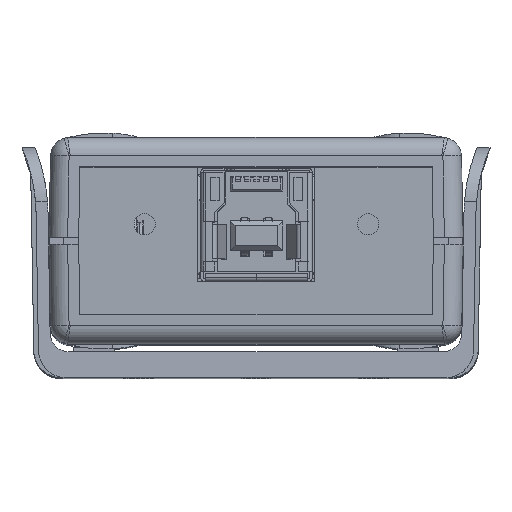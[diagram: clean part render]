
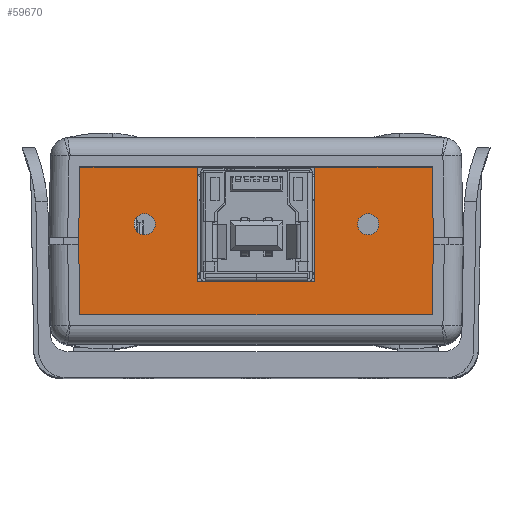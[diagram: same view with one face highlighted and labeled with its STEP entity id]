
A CAD part, top view. The second image highlights one B-rep face of the part: STEP entity #59670.
In plain terms, the highlighted planar face has unit normal (0, 0, 1).
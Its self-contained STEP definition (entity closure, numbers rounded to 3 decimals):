
#1153=FACE_BOUND('',#7857,.T.);
#1154=FACE_BOUND('',#7858,.T.);
#2159=CIRCLE('',#64520,1.135);
#2160=CIRCLE('',#64522,1.135);
#4625=FACE_OUTER_BOUND('',#7856,.T.);
#7856=EDGE_LOOP('',(#50881,#50882,#50883,#50884,#50885,#50886,#50887,#50888,
#50889,#50890,#50891,#50892,#50893,#50894,#50895,#50896,#50897));
#7857=EDGE_LOOP('',(#50898));
#7858=EDGE_LOOP('',(#50899));
#12058=LINE('',#90806,#19343);
#12416=LINE('',#91953,#19701);
#12418=LINE('',#91958,#19703);
#12420=LINE('',#91962,#19705);
#13266=LINE('',#94368,#20551);
#13270=LINE('',#94375,#20555);
#14347=LINE('',#96941,#21632);
#14349=LINE('',#96945,#21634);
#14356=LINE('',#96964,#21641);
#14365=LINE('',#96980,#21650);
#14372=LINE('',#96993,#21657);
#14374=LINE('',#96997,#21659);
#14378=LINE('',#97004,#21663);
#14381=LINE('',#97008,#21666);
#14382=LINE('',#97011,#21667);
#14390=LINE('',#97029,#21675);
#14391=LINE('',#97030,#21676);
#19343=VECTOR('',#72981,10.);
#19701=VECTOR('',#73977,10.);
#19703=VECTOR('',#73983,10.);
#19705=VECTOR('',#73985,10.);
#20551=VECTOR('',#75921,10.);
#20555=VECTOR('',#75929,10.);
#21632=VECTOR('',#78338,10.);
#21634=VECTOR('',#78342,10.);
#21641=VECTOR('',#78355,10.);
#21650=VECTOR('',#78370,10.);
#21657=VECTOR('',#78379,10.);
#21659=VECTOR('',#78383,10.);
#21663=VECTOR('',#78389,10.);
#21666=VECTOR('',#78394,10.);
#21667=VECTOR('',#78399,10.);
#21675=VECTOR('',#78423,10.);
#21676=VECTOR('',#78424,10.);
#26150=VERTEX_POINT('',#90804);
#26151=VERTEX_POINT('',#90805);
#26397=VERTEX_POINT('',#91952);
#26398=VERTEX_POINT('',#91957);
#26399=VERTEX_POINT('',#91959);
#26400=VERTEX_POINT('',#91961);
#27046=VERTEX_POINT('',#94366);
#27047=VERTEX_POINT('',#94367);
#27048=VERTEX_POINT('',#94374);
#27871=VERTEX_POINT('',#96940);
#27872=VERTEX_POINT('',#96944);
#27881=VERTEX_POINT('',#96962);
#27885=VERTEX_POINT('',#96979);
#27890=VERTEX_POINT('',#96991);
#27891=VERTEX_POINT('',#96996);
#27892=VERTEX_POINT('',#97001);
#27893=VERTEX_POINT('',#97003);
#27894=VERTEX_POINT('',#97021);
#27895=VERTEX_POINT('',#97025);
#33090=EDGE_CURVE('',#26150,#26151,#12058,.T.);
#33548=EDGE_CURVE('',#26397,#26150,#12416,.T.);
#33550=EDGE_CURVE('',#26398,#26397,#12418,.T.);
#33552=EDGE_CURVE('',#26399,#26400,#12420,.T.);
#34566=EDGE_CURVE('',#27046,#27047,#13266,.T.);
#34570=EDGE_CURVE('',#27048,#27046,#13270,.T.);
#35843=EDGE_CURVE('',#27871,#27048,#14347,.T.);
#35845=EDGE_CURVE('',#27047,#27872,#14349,.T.);
#35855=EDGE_CURVE('',#27881,#27871,#14356,.T.);
#35864=EDGE_CURVE('',#27885,#26399,#14365,.T.);
#35871=EDGE_CURVE('',#27890,#27885,#14372,.T.);
#35873=EDGE_CURVE('',#26151,#27891,#14374,.T.);
#35877=EDGE_CURVE('',#27892,#27893,#14378,.T.);
#35880=EDGE_CURVE('',#27893,#26398,#14381,.T.);
#35881=EDGE_CURVE('',#27891,#27881,#14382,.T.);
#35887=EDGE_CURVE('',#27894,#27894,#2159,.F.);
#35889=EDGE_CURVE('',#27895,#27895,#2160,.F.);
#35891=EDGE_CURVE('',#26400,#27892,#14390,.T.);
#35892=EDGE_CURVE('',#27872,#27890,#14391,.T.);
#50881=ORIENTED_EDGE('',*,*,#35873,.F.);
#50882=ORIENTED_EDGE('',*,*,#33090,.F.);
#50883=ORIENTED_EDGE('',*,*,#33548,.F.);
#50884=ORIENTED_EDGE('',*,*,#33550,.F.);
#50885=ORIENTED_EDGE('',*,*,#35880,.F.);
#50886=ORIENTED_EDGE('',*,*,#35877,.F.);
#50887=ORIENTED_EDGE('',*,*,#35891,.F.);
#50888=ORIENTED_EDGE('',*,*,#33552,.F.);
#50889=ORIENTED_EDGE('',*,*,#35864,.F.);
#50890=ORIENTED_EDGE('',*,*,#35871,.F.);
#50891=ORIENTED_EDGE('',*,*,#35892,.F.);
#50892=ORIENTED_EDGE('',*,*,#35845,.F.);
#50893=ORIENTED_EDGE('',*,*,#34566,.F.);
#50894=ORIENTED_EDGE('',*,*,#34570,.F.);
#50895=ORIENTED_EDGE('',*,*,#35843,.F.);
#50896=ORIENTED_EDGE('',*,*,#35855,.F.);
#50897=ORIENTED_EDGE('',*,*,#35881,.F.);
#50898=ORIENTED_EDGE('',*,*,#35887,.T.);
#50899=ORIENTED_EDGE('',*,*,#35889,.T.);
#56715=PLANE('',#64523);
#59670=ADVANCED_FACE('',(#4625,#1153,#1154),#56715,.F.);
#64520=AXIS2_PLACEMENT_3D('',#97022,#78413,#78414);
#64522=AXIS2_PLACEMENT_3D('',#97026,#78418,#78419);
#64523=AXIS2_PLACEMENT_3D('',#97028,#78421,#78422);
#72981=DIRECTION('',(1.,0.,0.));
#73977=DIRECTION('',(0.017,-1.,0.));
#73983=DIRECTION('',(1.,0.,0.));
#73985=DIRECTION('',(1.,0.,0.));
#75921=DIRECTION('',(-0.017,1.,0.));
#75929=DIRECTION('',(-1.,0.,0.));
#78338=DIRECTION('',(-0.017,-1.,0.));
#78342=DIRECTION('',(-1.,0.,0.));
#78355=DIRECTION('',(-1.,0.,0.));
#78370=DIRECTION('',(0.017,1.,0.));
#78379=DIRECTION('',(1.,0.,0.));
#78383=DIRECTION('',(0.052,-0.999,0.));
#78389=DIRECTION('',(1.,0.,0.));
#78394=DIRECTION('',(0.,1.,0.));
#78399=DIRECTION('',(0.,-1.,0.));
#78413=DIRECTION('center_axis',(0.,0.,
1.));
#78414=DIRECTION('ref_axis',(1.,0.,0.));
#78418=DIRECTION('center_axis',(0.,0.,
1.));
#78419=DIRECTION('ref_axis',(1.,0.,0.));
#78421=DIRECTION('center_axis',(0.,0.,
-1.));
#78422=DIRECTION('ref_axis',(-1.,0.,0.));
#78423=DIRECTION('',(0.,-1.,0.));
#78424=DIRECTION('',(0.,1.,0.));
#90804=CARTESIAN_POINT('',(37.975,13.034,1.042));
#90805=CARTESIAN_POINT('',(38.945,13.034,1.042));
#90806=CARTESIAN_POINT('',(29.196,13.034,1.042));
#91952=CARTESIAN_POINT('',(37.965,13.619,1.042));
#91953=CARTESIAN_POINT('',(38.032,9.795,1.042));
#91957=CARTESIAN_POINT('',(25.38,13.619,1.042));
#91958=CARTESIAN_POINT('',(9.627,13.619,1.042));
#91959=CARTESIAN_POINT('',(0.155,13.619,1.042));
#91961=CARTESIAN_POINT('',(12.82,13.619,1.042));
#91962=CARTESIAN_POINT('',(9.627,13.619,1.042));
#94366=CARTESIAN_POINT('',(0.155,-2.22,1.042));
#94367=CARTESIAN_POINT('',(0.145,-1.635,1.042));
#94368=CARTESIAN_POINT('',(0.089,1.543,1.042));
#94374=CARTESIAN_POINT('',(37.965,-2.22,1.042));
#94375=CARTESIAN_POINT('',(28.533,-2.22,1.042));
#96940=CARTESIAN_POINT('',(37.975,-1.635,1.042));
#96941=CARTESIAN_POINT('',(38.135,7.544,1.042));
#96944=CARTESIAN_POINT('',(-0.92,-1.635,1.042));
#96945=CARTESIAN_POINT('',(8.964,-1.635,1.042));
#96962=CARTESIAN_POINT('',(39.12,-1.635,1.042));
#96964=CARTESIAN_POINT('',(8.964,-1.635,1.042));
#96979=CARTESIAN_POINT('',(0.145,13.034,1.042));
#96980=CARTESIAN_POINT('',(-0.016,3.796,1.042));
#96991=CARTESIAN_POINT('',(-0.92,13.034,1.042));
#96993=CARTESIAN_POINT('',(29.196,13.034,1.042));
#96996=CARTESIAN_POINT('',(39.12,9.688,1.042));
#96997=CARTESIAN_POINT('',(39.563,1.242,1.042));
#97001=CARTESIAN_POINT('',(12.82,1.319,1.042));
#97003=CARTESIAN_POINT('',(25.38,1.319,1.042));
#97004=CARTESIAN_POINT('',(12.82,1.319,1.042));
#97008=CARTESIAN_POINT('',(25.38,1.319,1.042));
#97011=CARTESIAN_POINT('',(39.12,14.659,1.042));
#97021=CARTESIAN_POINT('',(29.965,7.474,1.042));
#97022=CARTESIAN_POINT('Origin',(31.1,7.474,1.042));
#97025=CARTESIAN_POINT('',(5.965,7.474,1.042));
#97026=CARTESIAN_POINT('Origin',(7.1,7.474,1.042));
#97028=CARTESIAN_POINT('Origin',(19.1,5.639,1.042));
#97029=CARTESIAN_POINT('',(12.82,14.659,1.042));
#97030=CARTESIAN_POINT('',(-0.92,-3.381,1.042));
